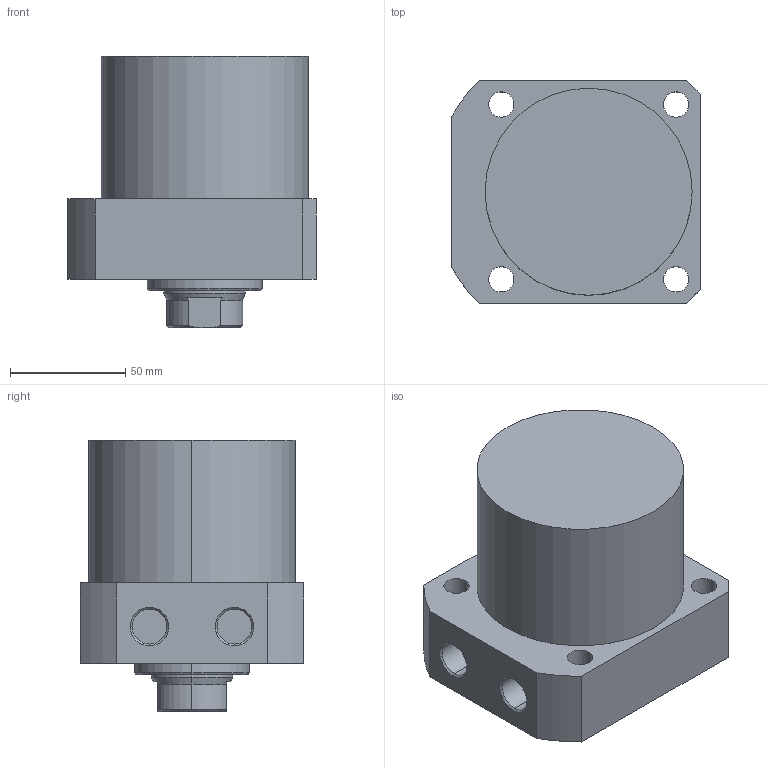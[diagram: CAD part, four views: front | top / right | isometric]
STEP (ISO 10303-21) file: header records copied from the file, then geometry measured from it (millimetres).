
FILE_DESCRIPTION (( 'STEP AP203' ), '1' );
FILE_NAME ('CLLR-090CA-040.STEP', '2019-12-19T02:16:27', ( '' ), ( '' ), 'SwSTEP 2.0', 'SolidWorks 2015', '' );
FILE_SCHEMA (( 'CONFIG_CONTROL_DESIGN' ));
Length unit declared in the file: millimetre
Products named in the file (1): CLLR-090CA-040
Bounding box: 108 x 97 x 118 mm (x, y, z)
Volume: 744690.1 mm3; surface area: 62592.7 mm2
Topology: 1 solids, 1 shells, 63 faces, 149 edges, 94 vertices
Faces by surface type: cylinder 29, plane 19, cone 15
Entity records: 1927 total; most frequent: DIRECTION 340, CARTESIAN_POINT 337, ORIENTED_EDGE 294, EDGE_CURVE 147, AXIS2_PLACEMENT_3D 137, VERTEX_POINT 94, EDGE_LOOP 79, CIRCLE 73
